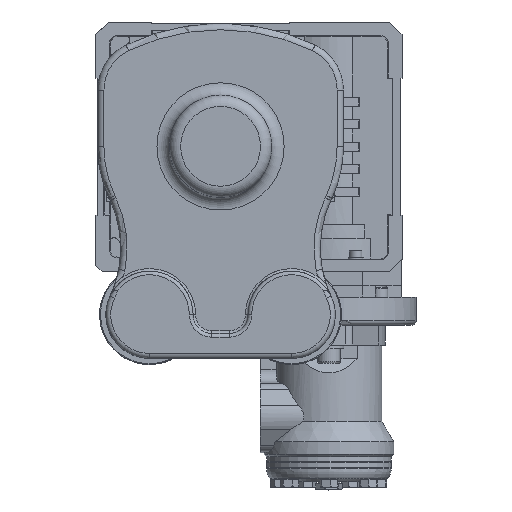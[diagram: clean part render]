
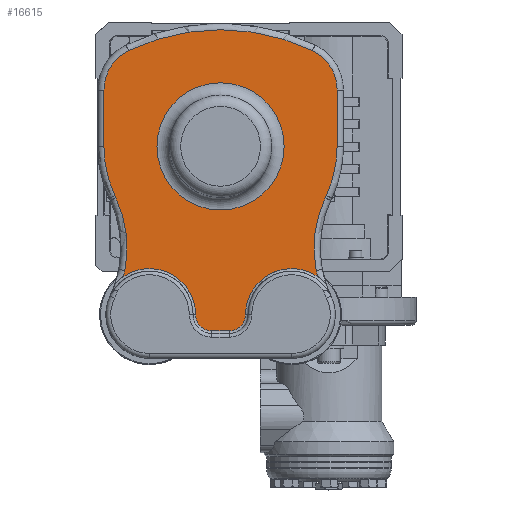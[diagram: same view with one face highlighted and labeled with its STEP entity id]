
A CAD part, top view. The second image highlights one B-rep face of the part: STEP entity #16615.
In plain terms, the highlighted planar face has unit normal (0, 0, 1).
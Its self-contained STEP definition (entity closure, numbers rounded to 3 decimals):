
#1329=LINE('',#30127,#2636);
#1330=LINE('',#30137,#2637);
#1331=LINE('',#30141,#2638);
#1332=LINE('',#30149,#2639);
#1333=LINE('',#30153,#2640);
#2636=VECTOR('',#22780,14.);
#2637=VECTOR('',#22789,2.038);
#2638=VECTOR('',#22792,45.167);
#2639=VECTOR('',#22799,45.167);
#2640=VECTOR('',#22802,2.038);
#3639=PLANE('',#18288);
#3847=FACE_BOUND('',#5820,.T.);
#4682=FACE_OUTER_BOUND('',#5819,.T.);
#5819=EDGE_LOOP('',(#14744,#14745,#14746,#14747,#14748,#14749,#14750,#14751,
#14752,#14753,#14754,#14755,#14756,#14757,#14758,#14759,#14760,#14761));
#5820=EDGE_LOOP('',(#14762));
#6617=CIRCLE('',#18289,15.);
#6618=CIRCLE('',#18290,37.);
#6619=CIRCLE('',#18291,13.);
#6620=CIRCLE('',#18292,13.);
#6621=CIRCLE('',#18293,37.);
#6622=CIRCLE('',#18294,15.);
#6623=CIRCLE('',#18295,95.);
#6624=CIRCLE('',#18296,93.5);
#6625=CIRCLE('',#18297,35.);
#6626=CIRCLE('',#18298,170.);
#6627=CIRCLE('',#18299,35.);
#6628=CIRCLE('',#18300,93.5);
#6629=CIRCLE('',#18301,95.);
#6630=CIRCLE('',#18302,51.);
#8178=VERTEX_POINT('',#30119);
#8179=VERTEX_POINT('',#30120);
#8180=VERTEX_POINT('',#30122);
#8181=VERTEX_POINT('',#30124);
#8182=VERTEX_POINT('',#30126);
#8183=VERTEX_POINT('',#30128);
#8184=VERTEX_POINT('',#30130);
#8185=VERTEX_POINT('',#30132);
#8186=VERTEX_POINT('',#30134);
#8187=VERTEX_POINT('',#30136);
#8188=VERTEX_POINT('',#30138);
#8189=VERTEX_POINT('',#30140);
#8190=VERTEX_POINT('',#30142);
#8191=VERTEX_POINT('',#30144);
#8192=VERTEX_POINT('',#30146);
#8193=VERTEX_POINT('',#30148);
#8194=VERTEX_POINT('',#30150);
#8195=VERTEX_POINT('',#30152);
#8196=VERTEX_POINT('',#30155);
#10418=EDGE_CURVE('',#8178,#8179,#6617,.T.);
#10419=EDGE_CURVE('',#8180,#8178,#6618,.T.);
#10420=EDGE_CURVE('',#8181,#8180,#6619,.T.);
#10421=EDGE_CURVE('',#8182,#8181,#1329,.T.);
#10422=EDGE_CURVE('',#8183,#8182,#6620,.T.);
#10423=EDGE_CURVE('',#8184,#8183,#6621,.T.);
#10424=EDGE_CURVE('',#8185,#8184,#6622,.T.);
#10425=EDGE_CURVE('',#8186,#8185,#6623,.T.);
#10426=EDGE_CURVE('',#8187,#8186,#1330,.T.);
#10427=EDGE_CURVE('',#8187,#8188,#6624,.T.);
#10428=EDGE_CURVE('',#8189,#8188,#1331,.T.);
#10429=EDGE_CURVE('',#8189,#8190,#6625,.T.);
#10430=EDGE_CURVE('',#8190,#8191,#6626,.T.);
#10431=EDGE_CURVE('',#8191,#8192,#6627,.T.);
#10432=EDGE_CURVE('',#8193,#8192,#1332,.T.);
#10433=EDGE_CURVE('',#8193,#8194,#6628,.T.);
#10434=EDGE_CURVE('',#8195,#8194,#1333,.T.);
#10435=EDGE_CURVE('',#8179,#8195,#6629,.T.);
#10436=EDGE_CURVE('',#8196,#8196,#6630,.T.);
#14744=ORIENTED_EDGE('',*,*,#10418,.F.);
#14745=ORIENTED_EDGE('',*,*,#10419,.F.);
#14746=ORIENTED_EDGE('',*,*,#10420,.F.);
#14747=ORIENTED_EDGE('',*,*,#10421,.F.);
#14748=ORIENTED_EDGE('',*,*,#10422,.F.);
#14749=ORIENTED_EDGE('',*,*,#10423,.F.);
#14750=ORIENTED_EDGE('',*,*,#10424,.F.);
#14751=ORIENTED_EDGE('',*,*,#10425,.F.);
#14752=ORIENTED_EDGE('',*,*,#10426,.F.);
#14753=ORIENTED_EDGE('',*,*,#10427,.T.);
#14754=ORIENTED_EDGE('',*,*,#10428,.F.);
#14755=ORIENTED_EDGE('',*,*,#10429,.T.);
#14756=ORIENTED_EDGE('',*,*,#10430,.T.);
#14757=ORIENTED_EDGE('',*,*,#10431,.T.);
#14758=ORIENTED_EDGE('',*,*,#10432,.F.);
#14759=ORIENTED_EDGE('',*,*,#10433,.T.);
#14760=ORIENTED_EDGE('',*,*,#10434,.F.);
#14761=ORIENTED_EDGE('',*,*,#10435,.F.);
#14762=ORIENTED_EDGE('',*,*,#10436,.F.);
#16615=ADVANCED_FACE('',(#4682,#3847),#3639,.T.);
#18288=AXIS2_PLACEMENT_3D('',#30118,#22772,#22773);
#18289=AXIS2_PLACEMENT_3D('',#30121,#22774,#22775);
#18290=AXIS2_PLACEMENT_3D('',#30123,#22776,#22777);
#18291=AXIS2_PLACEMENT_3D('',#30125,#22778,#22779);
#18292=AXIS2_PLACEMENT_3D('',#30129,#22781,#22782);
#18293=AXIS2_PLACEMENT_3D('',#30131,#22783,#22784);
#18294=AXIS2_PLACEMENT_3D('',#30133,#22785,#22786);
#18295=AXIS2_PLACEMENT_3D('',#30135,#22787,#22788);
#18296=AXIS2_PLACEMENT_3D('',#30139,#22790,#22791);
#18297=AXIS2_PLACEMENT_3D('',#30143,#22793,#22794);
#18298=AXIS2_PLACEMENT_3D('',#30145,#22795,#22796);
#18299=AXIS2_PLACEMENT_3D('',#30147,#22797,#22798);
#18300=AXIS2_PLACEMENT_3D('',#30151,#22800,#22801);
#18301=AXIS2_PLACEMENT_3D('',#30154,#22803,#22804);
#18302=AXIS2_PLACEMENT_3D('',#30156,#22805,#22806);
#22772=DIRECTION('center_axis',(0.,0.,1.));
#22773=DIRECTION('ref_axis',(1.,0.,0.));
#22774=DIRECTION('center_axis',(0.,0.,1.));
#22775=DIRECTION('ref_axis',(-1.,0.,0.));
#22776=DIRECTION('center_axis',(0.,0.,1.));
#22777=DIRECTION('ref_axis',(0.219,0.976,0.));
#22778=DIRECTION('center_axis',(0.,0.,-1.));
#22779=DIRECTION('ref_axis',(-0.707,-0.707,0.));
#22780=DIRECTION('',(-1.,0.,0.));
#22781=DIRECTION('center_axis',(0.,0.,-1.));
#22782=DIRECTION('ref_axis',(0.707,-0.707,0.));
#22783=DIRECTION('center_axis',(0.,0.,1.));
#22784=DIRECTION('ref_axis',(-0.219,0.976,0.));
#22785=DIRECTION('center_axis',(0.,0.,1.));
#22786=DIRECTION('ref_axis',(-1.,0.,0.));
#22787=DIRECTION('center_axis',(0.,0.,1.));
#22788=DIRECTION('ref_axis',(-1.,0.,0.));
#22789=DIRECTION('',(-0.423,-0.906,0.));
#22790=DIRECTION('center_axis',(0.,0.,1.));
#22791=DIRECTION('ref_axis',(1.,0.,0.));
#22792=DIRECTION('',(0.,-1.,0.));
#22793=DIRECTION('center_axis',(0.,0.,1.));
#22794=DIRECTION('ref_axis',(1.,0.,0.));
#22795=DIRECTION('center_axis',(0.,0.,1.));
#22796=DIRECTION('ref_axis',(1.,0.,0.));
#22797=DIRECTION('center_axis',(0.,0.,1.));
#22798=DIRECTION('ref_axis',(1.,0.,0.));
#22799=DIRECTION('',(0.,1.,0.));
#22800=DIRECTION('center_axis',(0.,0.,1.));
#22801=DIRECTION('ref_axis',(1.,0.,0.));
#22802=DIRECTION('',(-0.423,0.906,0.));
#22803=DIRECTION('center_axis',(0.,0.,1.));
#22804=DIRECTION('ref_axis',(-1.,0.,0.));
#22805=DIRECTION('center_axis',(0.,0.,1.));
#22806=DIRECTION('ref_axis',(-1.,0.,0.));
#30118=CARTESIAN_POINT('Origin',(0.,-39.524,37.));
#30119=CARTESIAN_POINT('',(-79.224,-105.418,37.));
#30120=CARTESIAN_POINT('',(-76.706,-99.553,37.));
#30121=CARTESIAN_POINT('Origin',(-91.433,-96.704,37.));
#30122=CARTESIAN_POINT('',(-20.,-135.,37.));
#30123=CARTESIAN_POINT('Origin',(-57.,-135.,37.));
#30124=CARTESIAN_POINT('',(-7.,-148.,37.));
#30125=CARTESIAN_POINT('Origin',(-7.,-135.,37.));
#30126=CARTESIAN_POINT('',(7.,-148.,37.));
#30127=CARTESIAN_POINT('',(-3.5,-148.,37.));
#30128=CARTESIAN_POINT('',(20.,-135.,37.));
#30129=CARTESIAN_POINT('Origin',(7.,-135.,37.));
#30130=CARTESIAN_POINT('',(79.224,-105.418,37.));
#30131=CARTESIAN_POINT('Origin',(57.,-135.,37.));
#30132=CARTESIAN_POINT('',(76.706,-99.553,37.));
#30133=CARTESIAN_POINT('Origin',(91.433,-96.704,37.));
#30134=CARTESIAN_POINT('',(83.878,-41.362,37.));
#30135=CARTESIAN_POINT('Origin',(169.978,-81.511,37.));
#30136=CARTESIAN_POINT('',(84.74,-39.515,37.));
#30137=CARTESIAN_POINT('',(83.878,-41.362,37.));
#30138=CARTESIAN_POINT('',(93.5,0.,37.));
#30139=CARTESIAN_POINT('Origin',(0.,0.,
37.));
#30140=CARTESIAN_POINT('',(93.5,45.167,37.));
#30141=CARTESIAN_POINT('',(93.5,0.,37.));
#30142=CARTESIAN_POINT('',(73.667,76.71,37.));
#30143=CARTESIAN_POINT('Origin',(58.5,45.167,37.));
#30144=CARTESIAN_POINT('',(-73.667,76.71,37.));
#30145=CARTESIAN_POINT('Origin',(0.,-76.5,
37.));
#30146=CARTESIAN_POINT('',(-93.5,45.167,37.));
#30147=CARTESIAN_POINT('Origin',(-58.5,45.167,37.));
#30148=CARTESIAN_POINT('',(-93.5,0.,37.));
#30149=CARTESIAN_POINT('',(-93.5,45.167,37.));
#30150=CARTESIAN_POINT('',(-84.74,-39.515,37.));
#30151=CARTESIAN_POINT('Origin',(0.,0.,
37.));
#30152=CARTESIAN_POINT('',(-83.878,-41.362,37.));
#30153=CARTESIAN_POINT('',(-84.74,-39.515,37.));
#30154=CARTESIAN_POINT('Origin',(-169.978,-81.511,37.));
#30155=CARTESIAN_POINT('',(51.,0.,37.));
#30156=CARTESIAN_POINT('Origin',(0.,0.,
37.));
